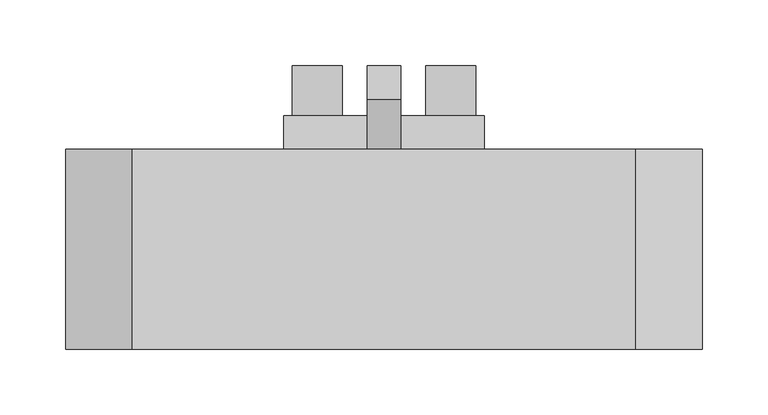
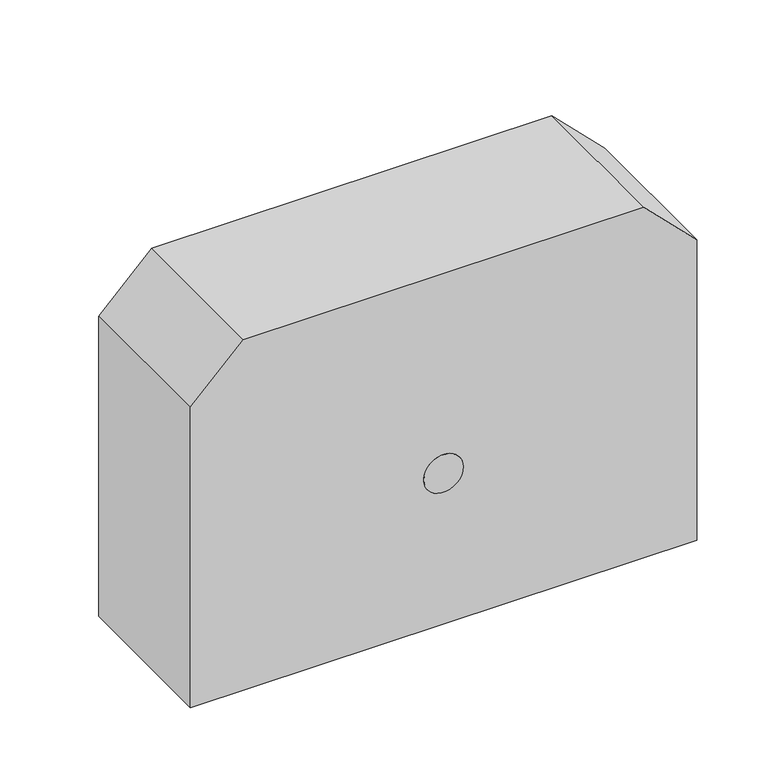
"""IFC4 building model written with IfcOpenShell, lengths in millimetres: flow terminal geometry, M_Lavabo - Montado en muro : 485 mm x 355 mm - Privado."""

from ifc_helpers import new_model, si_unit, point, frame, frame_2d, origin, place, context, project, spatial, polyline, circle_curve, trimmed, segment, composite_curve, outline, extrude, source, transform, mapped, element, save
from ifc_brep_helpers import plane_surface, revolved_surface, advanced_brep


def flow_terminal_a7cef0fe(model_context):
    return source(origin(), model_context, "Body", "SolidModel", [
        extrude(outline(composite_curve([segment(trimmed(circle_curve(frame_2d((152.4, 0.0)), 19.05), [point((152.4, -19.05))], [point((152.4, 19.05))], False, "CARTESIAN"), True, "CONTINUOUS"), segment(trimmed(circle_curve(frame_2d((152.4, 0.0)), 19.05), [point((152.4, 19.05))], [point((152.4, -19.05))], False, "CARTESIAN"), True, "CONTINUOUS")], self_intersect=False)), frame((0.0, -152.4, 0.0), z_axis=(0.0, 1.0, 0.0), x_axis=(0.0, 0.0, 1.0)), (0.0, 0.0, 1.0), 25.4),
        advanced_brep(
        [(-242.5, -152.4, 304.2), (-242.5, -152.4, 0.0), (242.5, -152.4, 0.0), (242.5, -152.4, 304.2), (191.7, -152.4, 355.0), (-191.7, -152.4, 355.0), (19.05, -152.4, 152.4), (-19.05, -152.4, 152.4), (-242.5, 0.0, 304.2), (-191.7, 0.0, 355.0), (191.7, 0.0, 355.0), (242.5, 0.0, 304.2), (242.5, 0.0, 0.0), (-242.5, 0.0, 0.0), (170.9893219, 0.0, 304.2), (-170.9893219, 0.0, 304.2), (-191.7, 0.0, 284.2893219), (-191.7, 0.0, 114.3), (191.7, 0.0, 114.3), (191.7, 0.0, 284.2893219), (19.05, -127.0, 152.4), (-19.05, -127.0, 152.4), (170.9893219, -127.0, 304.2), (191.7, -127.0, 284.2893219), (191.7, -127.0, 114.3), (-191.7, -127.0, 114.3), (-191.7, -127.0, 284.2893219), (-170.9893219, -127.0, 304.2)],
        [
            (0, 1),
            (1, 2),
            (2, 3),
            (3, 4),
            (4, 5),
            (5, 0),
            (6, 7, circle_curve(frame((0.0, -152.4, 152.4), z_axis=(0.0, 1.0, 0.0), x_axis=(1.0, 0.0, 0.0)), 19.05)),
            (7, 6, circle_curve(frame((0.0, -152.4, 152.4), z_axis=(0.0, 1.0, 0.0), x_axis=(1.0, 0.0, 0.0)), 19.05)),
            (8, 9),
            (9, 10),
            (10, 11),
            (11, 12),
            (12, 13),
            (13, 8),
            (14, 15),
            (15, 16),
            (16, 17),
            (17, 18),
            (18, 19),
            (19, 14),
            (0, 8),
            (13, 1),
            (12, 2),
            (11, 3),
            (10, 4),
            (9, 5),
            (6, 20),
            (20, 21, circle_curve(frame((0.0, -127.0, 152.4), z_axis=(0.0, 1.0, 0.0), x_axis=(1.0, 0.0, 0.0)), 19.05)),
            (21, 7),
            (21, 20, circle_curve(frame((0.0, -127.0, 152.4), z_axis=(0.0, 1.0, 0.0), x_axis=(1.0, 0.0, 0.0)), 19.05)),
            (22, 23),
            (23, 24),
            (24, 25),
            (25, 26),
            (26, 27),
            (27, 22),
            (27, 15),
            (14, 22),
            (26, 16),
            (25, 17),
            (24, 18),
            (23, 19),
        ],
        [
            plane_surface(frame((-242.5, -152.4, 304.2), z_axis=(0.0, -1.0, 0.0), x_axis=(0.0, 0.0, -1.0))),
            plane_surface(frame((-242.5, 0.0, 304.2), z_axis=(0.0, 1.0, 0.0), x_axis=(0.0, 0.0, 1.0))),
            plane_surface(frame((-242.5, -152.4, 304.2), z_axis=(-1.0, 0.0, 0.0), x_axis=(0.0, 1.0, 0.0))),
            plane_surface(frame((-242.5, -152.4, 0.0), z_axis=(0.0, 0.0, -1.0), x_axis=(0.0, 1.0, 0.0))),
            plane_surface(frame((242.5, -152.4, 0.0), z_axis=(1.0, 0.0, 0.0), x_axis=(0.0, 1.0, 0.0))),
            plane_surface(frame((242.5, -152.4, 304.2), z_axis=(0.707106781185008, 0.0, 0.7071067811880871), x_axis=(0.0, 1.0, 0.0))),
            plane_surface(frame((191.7, -152.4, 355.0), z_axis=(0.0, 0.0, 1.0), x_axis=(0.0, 1.0, 0.0))),
            plane_surface(frame((-191.7, -152.4, 355.0), z_axis=(-0.7071067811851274, 0.0, 0.7071067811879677), x_axis=(0.0, 1.0, 0.0))),
            revolved_surface(polyline([(19.05, -152.4, 152.4), (19.05, -127.0, 152.4)]), (0.0, -127.0, 152.4), (0.0, -1.0, 0.0)),
            plane_surface(frame((-170.9893219, -127.0, 304.2), z_axis=(0.0, 1.0, 0.0), x_axis=(-1.0, 0.0, 0.0))),
            plane_surface(frame((170.9893219, -127.0, 304.2), z_axis=(0.0, 0.0, -1.0), x_axis=(0.0, 1.0, 0.0))),
            plane_surface(frame((-170.9893219, -127.0, 304.2), z_axis=(0.6930465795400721, 0.0, -0.7208928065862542), x_axis=(0.0, 1.0, 0.0))),
            plane_surface(frame((-191.7, -127.0, 284.2893219), z_axis=(1.0, 0.0, 0.0), x_axis=(0.0, 1.0, 0.0))),
            plane_surface(frame((-191.7, -127.0, 114.3), z_axis=(0.0, 0.0, 1.0), x_axis=(0.0, 1.0, 0.0))),
            plane_surface(frame((191.7, -127.0, 114.3), z_axis=(-1.0, 0.0, 0.0), x_axis=(0.0, 1.0, 0.0))),
            plane_surface(frame((191.7, -127.0, 284.2893219), z_axis=(-0.6930465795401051, 0.0, -0.7208928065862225), x_axis=(0.0, 1.0, 0.0))),
        ],
        [
            (0, [[1, 2, 3, 4, 5, 6], [7, 8]]),
            (1, [[9, 10, 11, 12, 13, 14], [15, 16, 17, 18, 19, 20]]),
            (2, [[-1, 21, -14, 22]]),
            (3, [[-2, -22, -13, 23]]),
            (4, [[-3, -23, -12, 24]]),
            (5, [[-4, -24, -11, 25]]),
            (6, [[-5, -25, -10, 26]]),
            (7, [[-6, -26, -9, -21]]),
            (8, [[27, 28, 29, -7]]),
            (8, [[-27, -8, -29, 30]]),
            (9, [[31, 32, 33, 34, 35, 36], [-28, -30]]),
            (10, [[-36, 37, -15, 38]]),
            (11, [[-35, 39, -16, -37]]),
            (12, [[-34, 40, -17, -39]]),
            (13, [[-33, 41, -18, -40]]),
            (14, [[-32, 42, -19, -41]]),
            (15, [[-31, -38, -20, -42]]),
        ],
    ),
        extrude(outline(composite_curve([segment(trimmed(circle_curve(frame_2d((53.975, -50.8)), 19.05), [point((53.975, -69.85))], [point((53.975, -31.75))], False, "CARTESIAN"), True, "CONTINUOUS"), segment(trimmed(circle_curve(frame_2d((53.975, -50.8)), 19.05), [point((53.975, -31.75))], [point((53.975, -69.85))], False, "CARTESIAN"), True, "CONTINUOUS")], self_intersect=False)), frame((0.0, 25.4, 0.0), z_axis=(0.0, 1.0, 0.0), x_axis=(0.0, 0.0, 1.0)), (0.0, 0.0, 1.0), 38.1),
        extrude(outline(polyline([(25.4, 79.375), (0.0, 79.375), (38.1, 165.9775404), (63.5, 165.9775404), (25.4, 79.375)])), frame((-12.7, 0.0, 0.0), z_axis=(1.0, 0.0, 0.0), x_axis=(0.0, 1.0, 0.0)), (0.0, 0.0, 1.0), 25.4),
        extrude(outline(composite_curve([segment(trimmed(circle_curve(frame_2d((53.975, 50.8)), 19.05), [point((53.975, 31.75))], [point((53.975, 69.85))], False, "CARTESIAN"), True, "CONTINUOUS"), segment(trimmed(circle_curve(frame_2d((53.975, 50.8)), 19.05), [point((53.975, 69.85))], [point((53.975, 31.75))], False, "CARTESIAN"), True, "CONTINUOUS")], self_intersect=False)), frame((0.0, 25.4, 0.0), z_axis=(0.0, 1.0, 0.0), x_axis=(0.0, 0.0, 1.0)), (0.0, 0.0, 1.0), 38.1),
        extrude(outline(polyline([(76.2, 0.0), (-76.2, 0.0), (-76.2, 25.4), (76.2, 25.4), (76.2, 0.0)])), frame((0.0, 0.0, 28.575), z_axis=(0.0, 0.0, 1.0), x_axis=(1.0, 0.0, 0.0)), (0.0, 0.0, 1.0), 50.8),
    ])


if __name__ == "__main__":
    model = new_model("IFC4")
    model_context = context("Model", 3, world=origin())
    ifc_project = project(units=[si_unit("LENGTHUNIT", "METRE", prefix="MILLI")], contexts=[model_context])
    site = spatial("IfcSite", under=ifc_project)
    building = spatial("IfcBuilding", under=site)
    placement = place(None, origin())
    flow_terminal_shape = flow_terminal_a7cef0fe(model_context)
    element("IfcFlowTerminal", 1, ObjectType="M_Lavabo - Montado en muro : 485 mm x 355 mm - Privado", at=placement, inside=building, context=model_context, shape_type="MappedRepresentation", body=[
        mapped(flow_terminal_shape, transform((0.0, 0.0, 0.0), x_axis=(1.0, 0.0, 0.0), y_axis=(0.0, 1.0, 0.0), z_axis=(0.0, 0.0, 1.0))),
    ])
    save(model, "model.ifc")
